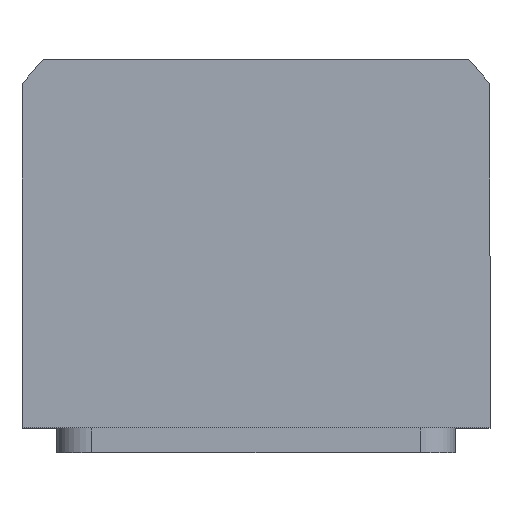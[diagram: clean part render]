
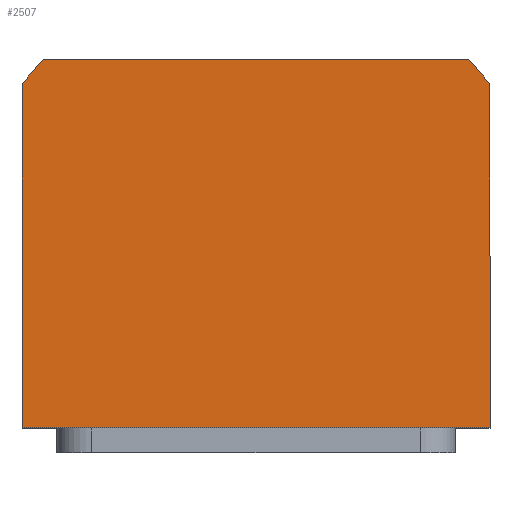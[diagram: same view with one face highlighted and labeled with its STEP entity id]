
A CAD part, top view. The second image highlights one B-rep face of the part: STEP entity #2507.
In plain terms, the highlighted planar face has unit normal (0, 0, 1).
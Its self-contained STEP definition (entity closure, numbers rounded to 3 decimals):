
#33 = VERTEX_POINT ( 'NONE', #3269 ) ;
#157 = VERTEX_POINT ( 'NONE', #9407 ) ;
#269 = DIRECTION ( 'NONE',  ( 1., 0., 0. ) ) ;
#316 = EDGE_CURVE ( 'NONE', #8295, #33, #10852, .T. ) ;
#436 = CARTESIAN_POINT ( 'NONE',  ( 42.688, 40., 50. ) ) ;
#851 = CIRCLE ( 'NONE', #2903, 58.5 ) ;
#1018 = ORIENTED_EDGE ( 'NONE', *, *, #8638, .T. ) ;
#1521 = EDGE_CURVE ( 'NONE', #6335, #10853, #1696, .T. ) ;
#1696 = LINE ( 'NONE', #3189, #10237 ) ;
#2052 = ORIENTED_EDGE ( 'NONE', *, *, #5117, .T. ) ;
#2479 = VECTOR ( 'NONE', #6760, 1000. ) ;
#2507 = ADVANCED_FACE ( 'NONE', ( #10765 ), #8786, .T. ) ;
#2799 = CARTESIAN_POINT ( 'NONE',  ( 0., 0., 50. ) ) ;
#2903 = AXIS2_PLACEMENT_3D ( 'NONE', #2799, #3666, #6995 ) ;
#2933 = CARTESIAN_POINT ( 'NONE',  ( 0., 0., 50. ) ) ;
#3017 = CIRCLE ( 'NONE', #7362, 58.5 ) ;
#3189 = CARTESIAN_POINT ( 'NONE',  ( 47., -34., 50. ) ) ;
#3269 = CARTESIAN_POINT ( 'NONE',  ( -42.688, 40., 50. ) ) ;
#3452 = CARTESIAN_POINT ( 'NONE',  ( 47., 34.832, 50. ) ) ;
#3469 = CARTESIAN_POINT ( 'NONE',  ( 47., -34., 50. ) ) ;
#3666 = DIRECTION ( 'NONE',  ( 0., 0., 1. ) ) ;
#4297 = EDGE_CURVE ( 'NONE', #157, #6335, #5399, .T. ) ;
#4455 = EDGE_CURVE ( 'NONE', #10713, #8295, #3017, .T. ) ;
#4547 = CARTESIAN_POINT ( 'NONE',  ( 0., 0., 50. ) ) ;
#4585 = EDGE_LOOP ( 'NONE', ( #9827, #2052, #8851, #9251, #1018, #5890 ) ) ;
#5117 = EDGE_CURVE ( 'NONE', #10853, #10713, #6467, .T. ) ;
#5145 = AXIS2_PLACEMENT_3D ( 'NONE', #4547, #7875, #7958 ) ;
#5399 = LINE ( 'NONE', #5878, #2479 ) ;
#5878 = CARTESIAN_POINT ( 'NONE',  ( -47., -34., 50. ) ) ;
#5890 = ORIENTED_EDGE ( 'NONE', *, *, #4297, .T. ) ;
#6014 = DIRECTION ( 'NONE',  ( -1., 0., 0. ) ) ;
#6335 = VERTEX_POINT ( 'NONE', #7373 ) ;
#6467 = LINE ( 'NONE', #3452, #8204 ) ;
#6760 = DIRECTION ( 'NONE',  ( 0., -1., 0. ) ) ;
#6995 = DIRECTION ( 'NONE',  ( 1., 0., 0. ) ) ;
#7362 = AXIS2_PLACEMENT_3D ( 'NONE', #2933, #9716, #269 ) ;
#7368 = CARTESIAN_POINT ( 'NONE',  ( 47., 34.832, 50. ) ) ;
#7373 = CARTESIAN_POINT ( 'NONE',  ( -47., -34., 50. ) ) ;
#7637 = VECTOR ( 'NONE', #6014, 1000. ) ;
#7713 = DIRECTION ( 'NONE',  ( 0., 1., 0. ) ) ;
#7875 = DIRECTION ( 'NONE',  ( 0., 0., 1. ) ) ;
#7958 = DIRECTION ( 'NONE',  ( 1., 0., 0. ) ) ;
#8204 = VECTOR ( 'NONE', #7713, 1000. ) ;
#8295 = VERTEX_POINT ( 'NONE', #436 ) ;
#8638 = EDGE_CURVE ( 'NONE', #33, #157, #851, .T. ) ;
#8786 = PLANE ( 'NONE',  #5145 ) ;
#8851 = ORIENTED_EDGE ( 'NONE', *, *, #4455, .T. ) ;
#9025 = DIRECTION ( 'NONE',  ( 1., 0., 0. ) ) ;
#9251 = ORIENTED_EDGE ( 'NONE', *, *, #316, .T. ) ;
#9407 = CARTESIAN_POINT ( 'NONE',  ( -47., 34.832, 50. ) ) ;
#9716 = DIRECTION ( 'NONE',  ( 0., 0., 1. ) ) ;
#9827 = ORIENTED_EDGE ( 'NONE', *, *, #1521, .T. ) ;
#10237 = VECTOR ( 'NONE', #9025, 1000. ) ;
#10328 = CARTESIAN_POINT ( 'NONE',  ( -42.688, 40., 50. ) ) ;
#10713 = VERTEX_POINT ( 'NONE', #7368 ) ;
#10765 = FACE_OUTER_BOUND ( 'NONE', #4585, .T. ) ;
#10852 = LINE ( 'NONE', #10328, #7637 ) ;
#10853 = VERTEX_POINT ( 'NONE', #3469 ) ;
